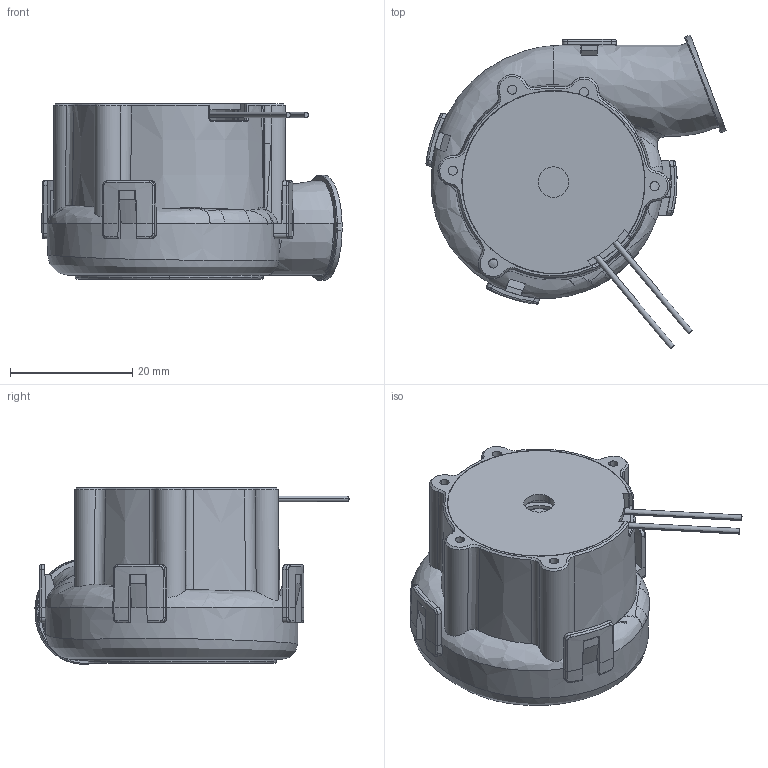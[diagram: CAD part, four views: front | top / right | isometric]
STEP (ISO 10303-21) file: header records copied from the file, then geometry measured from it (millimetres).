
FILE_DESCRIPTION((''),'2;1');
FILE_NAME('1','2026-09-09T08:28:14',('pc'),(''),'CREO PARAMETRIC BY PTC INC, 2018050','CREO PARAMETRIC BY PTC INC, 2018050','');
FILE_SCHEMA(('CONFIG_CONTROL_DESIGN','GEOMETRIC_VALIDATION_PROPERTIES_MIM'));
Length unit declared in the file: millimetre
Products named in the file (1): 1
Bounding box: 49.11 x 51.38 x 28.9 mm (x, y, z)
Volume: 21362.9 mm3; surface area: 15231.8 mm2
Topology: 3 solids, 5 shells, 378 faces, 965 edges, 610 vertices
Faces by surface type: cylinder 123, plane 122, bspline 73, cone 47, torus 11, extrusion 2
Entity records: 17820 total; most frequent: CARTESIAN_POINT 9350, ORIENTED_EDGE 1930, DIRECTION 1408, EDGE_CURVE 965, VERTEX_POINT 610, AXIS2_PLACEMENT_3D 551, B_SPLINE_CURVE_WITH_KNOTS 415, EDGE_LOOP 405
